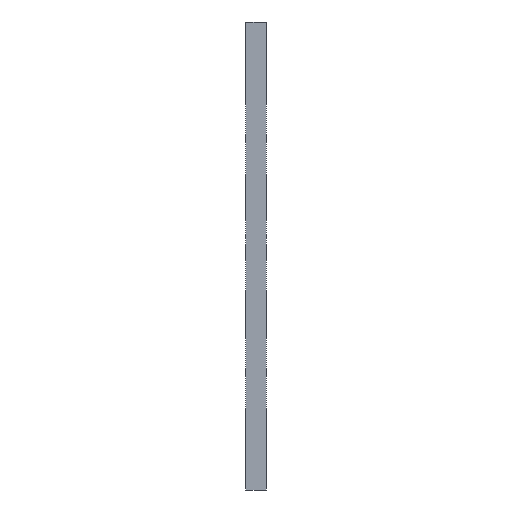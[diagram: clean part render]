
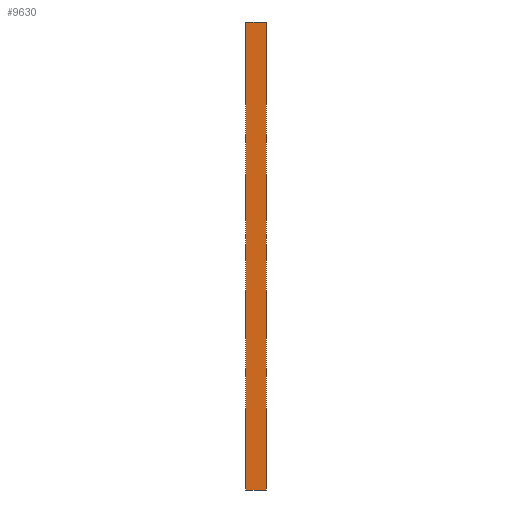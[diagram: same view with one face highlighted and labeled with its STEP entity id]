
A CAD part, left-side view. The second image highlights one B-rep face of the part: STEP entity #9630.
In plain terms, the highlighted planar face has unit normal (-1, 0, 0).
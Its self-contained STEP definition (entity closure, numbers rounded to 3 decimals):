
#390 = VERTEX_POINT ( 'NONE', #2592 ) ;
#732 = DIRECTION ( 'NONE',  ( 0., -1., 0. ) ) ;
#884 = DIRECTION ( 'NONE',  ( 0., -1., 0. ) ) ;
#1450 = VECTOR ( 'NONE', #3656, 1000. ) ;
#2592 = CARTESIAN_POINT ( 'NONE',  ( -300., 13., -150. ) ) ;
#3280 = FACE_OUTER_BOUND ( 'NONE', #9744, .T. ) ;
#3656 = DIRECTION ( 'NONE',  ( 0., 0., 1. ) ) ;
#4276 = ORIENTED_EDGE ( 'NONE', *, *, #20956, .F. ) ;
#5655 = PLANE ( 'NONE',  #5938 ) ;
#5697 = VERTEX_POINT ( 'NONE', #14526 ) ;
#5938 = AXIS2_PLACEMENT_3D ( 'NONE', #13234, #10961, #21055 ) ;
#7224 = EDGE_CURVE ( 'NONE', #8177, #5697, #17640, .T. ) ;
#8037 = LINE ( 'NONE', #15974, #10955 ) ;
#8177 = VERTEX_POINT ( 'NONE', #8717 ) ;
#8678 = VERTEX_POINT ( 'NONE', #15860 ) ;
#8717 = CARTESIAN_POINT ( 'NONE',  ( -300., 0., -150. ) ) ;
#9084 = VECTOR ( 'NONE', #22427, 1000. ) ;
#9562 = EDGE_CURVE ( 'NONE', #390, #8177, #14374, .T. ) ;
#9630 = ADVANCED_FACE ( 'NONE', ( #3280 ), #5655, .F. ) ;
#9744 = EDGE_LOOP ( 'NONE', ( #20012, #20627, #4276, #13447 ) ) ;
#10460 = CARTESIAN_POINT ( 'NONE',  ( -300., 13., -150. ) ) ;
#10955 = VECTOR ( 'NONE', #732, 1000. ) ;
#10961 = DIRECTION ( 'NONE',  ( 1., 0., 0. ) ) ;
#12712 = LINE ( 'NONE', #18512, #9084 ) ;
#13234 = CARTESIAN_POINT ( 'NONE',  ( -300., 13., -150. ) ) ;
#13447 = ORIENTED_EDGE ( 'NONE', *, *, #9562, .T. ) ;
#13856 = CARTESIAN_POINT ( 'NONE',  ( -300., 0., -150. ) ) ;
#14374 = LINE ( 'NONE', #10460, #14800 ) ;
#14526 = CARTESIAN_POINT ( 'NONE',  ( -300., 0., 150. ) ) ;
#14800 = VECTOR ( 'NONE', #884, 1000. ) ;
#15340 = EDGE_CURVE ( 'NONE', #8678, #5697, #8037, .T. ) ;
#15860 = CARTESIAN_POINT ( 'NONE',  ( -300., 13., 150. ) ) ;
#15974 = CARTESIAN_POINT ( 'NONE',  ( -300., 13., 150. ) ) ;
#17640 = LINE ( 'NONE', #13856, #1450 ) ;
#18512 = CARTESIAN_POINT ( 'NONE',  ( -300., 13., -150. ) ) ;
#20012 = ORIENTED_EDGE ( 'NONE', *, *, #7224, .T. ) ;
#20627 = ORIENTED_EDGE ( 'NONE', *, *, #15340, .F. ) ;
#20956 = EDGE_CURVE ( 'NONE', #390, #8678, #12712, .T. ) ;
#21055 = DIRECTION ( 'NONE',  ( 0., 0., -1. ) ) ;
#22427 = DIRECTION ( 'NONE',  ( 0., 0., 1. ) ) ;
